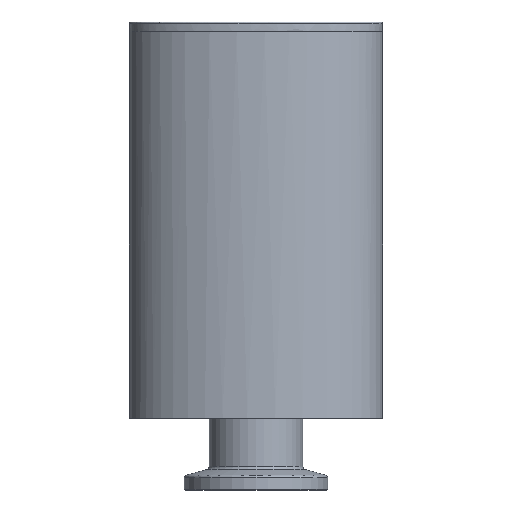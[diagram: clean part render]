
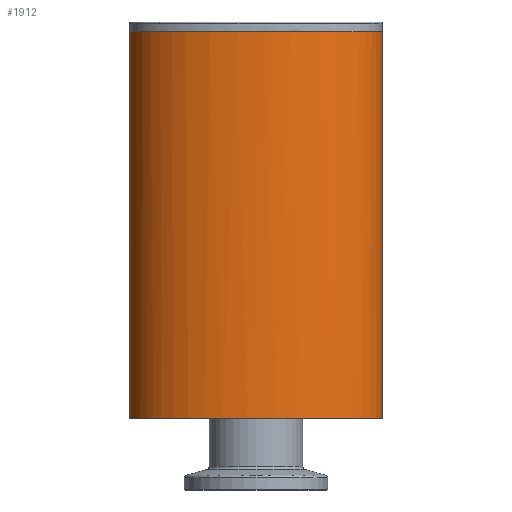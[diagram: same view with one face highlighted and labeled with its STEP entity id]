
A CAD part, front view. The second image highlights one B-rep face of the part: STEP entity #1912.
In plain terms, the highlighted free-form (B-spline) face has degree [3, 1] with [11, 2] control points.
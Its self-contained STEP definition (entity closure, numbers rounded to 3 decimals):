
#482 = CARTESIAN_POINT ( 'NONE',  ( -30.739, -4.303, 115.515 ) ) ;
#991 = CARTESIAN_POINT ( 'NONE',  ( -32.282, 2.533, 34.515 ) ) ;
#1443 = CARTESIAN_POINT ( 'NONE',  ( -32.282, 0.254, 115.515 ) ) ;
#1466 = VERTEX_POINT ( 'NONE', #4287 ) ;
#1646 = CARTESIAN_POINT ( 'NONE',  ( 20.718, 2.533, 115.515 ) ) ;
#1715 = VERTEX_POINT ( 'NONE', #4197 ) ;
#1756 = CARTESIAN_POINT ( 'NONE',  ( -32.282, 0.254, 34.515 ) ) ;
#1847 = LINE ( 'NONE', #5138, #13698 ) ;
#1912 = ADVANCED_FACE ( 'NONE', ( #12384 ), #13020, .T. ) ;
#2228 = B_SPLINE_CURVE_WITH_KNOTS ( 'NONE', 3,
 ( #991, #3346, #4134, #10814, #14171, #5495, #14104, #4345, #7439, #6281, #9669 ),
 .UNSPECIFIED., .F., .F.,
 ( 4, 1, 1, 1, 1, 1, 1, 1, 4 ),
 ( 0., 0.009, 0.017, 0.026, 0.034, 0.043, 0.051, 0.06, 0.069 ),
 .UNSPECIFIED. ) ;
#2634 = ORIENTED_EDGE ( 'NONE', *, *, #10253, .T. ) ;
#2706 = CARTESIAN_POINT ( 'NONE',  ( 20.718, 0.254, 115.515 ) ) ;
#2752 = CARTESIAN_POINT ( 'NONE',  ( -30.739, -4.303, 34.515 ) ) ;
#3133 = LINE ( 'NONE', #5497, #9160 ) ;
#3346 = CARTESIAN_POINT ( 'NONE',  ( -32.282, 0.254, 34.515 ) ) ;
#3690 = CARTESIAN_POINT ( 'NONE',  ( -32.282, 2.533, 34.515 ) ) ;
#3721 = CARTESIAN_POINT ( 'NONE',  ( -15.953, -13.16, 115.515 ) ) ;
#3766 = CARTESIAN_POINT ( 'NONE',  ( 4.388, -13.16, 115.515 ) ) ;
#3829 = CARTESIAN_POINT ( 'NONE',  ( -24.674, -9.674, 34.515 ) ) ;
#3896 = CARTESIAN_POINT ( 'NONE',  ( -15.953, -13.16, 115.515 ) ) ;
#3967 = CARTESIAN_POINT ( 'NONE',  ( 19.175, -4.303, 115.515 ) ) ;
#4134 = CARTESIAN_POINT ( 'NONE',  ( -30.739, -4.303, 34.515 ) ) ;
#4197 = CARTESIAN_POINT ( 'NONE',  ( 20.718, 2.533, 115.515 ) ) ;
#4287 = CARTESIAN_POINT ( 'NONE',  ( -32.282, 2.533, 115.515 ) ) ;
#4345 = CARTESIAN_POINT ( 'NONE',  ( 13.109, -9.674, 34.515 ) ) ;
#4462 = B_SPLINE_CURVE_WITH_KNOTS ( 'NONE', 3,
 ( #1646, #2706, #7151, #10461, #8033, #10191, #3721, #11258, #8104, #1443, #7017 ),
 .UNSPECIFIED., .F., .F.,
 ( 4, 1, 1, 1, 1, 1, 1, 1, 4 ),
 ( 0., 0.009, 0.017, 0.026, 0.034, 0.043, 0.051, 0.06, 0.069 ),
 .UNSPECIFIED. ) ;
#4844 = CARTESIAN_POINT ( 'NONE',  ( -24.674, -9.674, 115.515 ) ) ;
#5138 = CARTESIAN_POINT ( 'NONE',  ( 20.718, 2.533, 75.015 ) ) ;
#5492 = ORIENTED_EDGE ( 'NONE', *, *, #8215, .T. ) ;
#5495 = CARTESIAN_POINT ( 'NONE',  ( -5.782, -14.37, 34.515 ) ) ;
#5497 = CARTESIAN_POINT ( 'NONE',  ( -32.282, 2.533, 75.015 ) ) ;
#5909 = CARTESIAN_POINT ( 'NONE',  ( -32.282, 0.254, 115.515 ) ) ;
#6049 = CARTESIAN_POINT ( 'NONE',  ( 20.718, 0.254, 34.515 ) ) ;
#6116 = CARTESIAN_POINT ( 'NONE',  ( 20.718, 2.533, 34.515 ) ) ;
#6281 = CARTESIAN_POINT ( 'NONE',  ( 20.718, 0.254, 34.515 ) ) ;
#6330 = ORIENTED_EDGE ( 'NONE', *, *, #8298, .T. ) ;
#6396 = CARTESIAN_POINT ( 'NONE',  ( 20.718, 2.533, 34.515 ) ) ;
#6993 = CARTESIAN_POINT ( 'NONE',  ( -5.782, -14.37, 115.515 ) ) ;
#7017 = CARTESIAN_POINT ( 'NONE',  ( -32.282, 2.533, 115.515 ) ) ;
#7130 = CARTESIAN_POINT ( 'NONE',  ( 13.109, -9.674, 34.515 ) ) ;
#7151 = CARTESIAN_POINT ( 'NONE',  ( 19.175, -4.303, 115.515 ) ) ;
#7199 = CARTESIAN_POINT ( 'NONE',  ( 20.718, 0.254, 115.515 ) ) ;
#7396 = ORIENTED_EDGE ( 'NONE', *, *, #11153, .T. ) ;
#7437 = DIRECTION ( 'NONE',  ( 0., 0., 1. ) ) ;
#7439 = CARTESIAN_POINT ( 'NONE',  ( 19.175, -4.303, 34.515 ) ) ;
#8033 = CARTESIAN_POINT ( 'NONE',  ( 4.388, -13.16, 115.515 ) ) ;
#8104 = CARTESIAN_POINT ( 'NONE',  ( -30.739, -4.303, 115.515 ) ) ;
#8215 = EDGE_CURVE ( 'NONE', #1715, #1466, #4462, .T. ) ;
#8285 = CARTESIAN_POINT ( 'NONE',  ( 13.109, -9.674, 115.515 ) ) ;
#8298 = EDGE_CURVE ( 'NONE', #8935, #1715, #1847, .T. ) ;
#8598 = DIRECTION ( 'NONE',  ( 0., 0., -1. ) ) ;
#8641 = VERTEX_POINT ( 'NONE', #3690 ) ;
#8935 = VERTEX_POINT ( 'NONE', #6396 ) ;
#9160 = VECTOR ( 'NONE', #8598, 1000. ) ;
#9439 = CARTESIAN_POINT ( 'NONE',  ( 19.175, -4.303, 34.515 ) ) ;
#9669 = CARTESIAN_POINT ( 'NONE',  ( 20.718, 2.533, 34.515 ) ) ;
#10191 = CARTESIAN_POINT ( 'NONE',  ( -5.782, -14.37, 115.515 ) ) ;
#10253 = EDGE_CURVE ( 'NONE', #8641, #8935, #2228, .T. ) ;
#10461 = CARTESIAN_POINT ( 'NONE',  ( 13.109, -9.674, 115.515 ) ) ;
#10814 = CARTESIAN_POINT ( 'NONE',  ( -24.674, -9.674, 34.515 ) ) ;
#11153 = EDGE_CURVE ( 'NONE', #1466, #8641, #3133, .T. ) ;
#11258 = CARTESIAN_POINT ( 'NONE',  ( -24.674, -9.674, 115.515 ) ) ;
#11439 = CARTESIAN_POINT ( 'NONE',  ( -5.782, -14.37, 34.515 ) ) ;
#11505 = CARTESIAN_POINT ( 'NONE',  ( 20.718, 2.533, 115.515 ) ) ;
#11572 = CARTESIAN_POINT ( 'NONE',  ( 4.388, -13.16, 34.515 ) ) ;
#12384 = FACE_OUTER_BOUND ( 'NONE', #14047, .T. ) ;
#13020 = B_SPLINE_SURFACE_WITH_KNOTS ( 'NONE', 3, 1, ( 
 ( #13173, #13594 ),
 ( #1756, #5909 ),
 ( #2752, #482 ),
 ( #3829, #4844 ),
 ( #13797, #3896 ),
 ( #11439, #6993 ),
 ( #11572, #3766 ),
 ( #7130, #8285 ),
 ( #9439, #3967 ),
 ( #6049, #7199 ),
 ( #6116, #11505 ) ),
 .UNSPECIFIED., .F., .F., .F.,
 ( 4, 1, 1, 1, 1, 1, 1, 1, 4 ),
 ( 2, 2 ),
 ( 3.142, 3.534, 3.927, 4.32, 4.712, 5.105, 5.498, 5.89, 6.283 ),
 ( 0., 1. ),
 .UNSPECIFIED. ) ;
#13173 = CARTESIAN_POINT ( 'NONE',  ( -32.282, 2.533, 34.515 ) ) ;
#13594 = CARTESIAN_POINT ( 'NONE',  ( -32.282, 2.533, 115.515 ) ) ;
#13698 = VECTOR ( 'NONE', #7437, 1000. ) ;
#13797 = CARTESIAN_POINT ( 'NONE',  ( -15.953, -13.16, 34.515 ) ) ;
#14047 = EDGE_LOOP ( 'NONE', ( #7396, #2634, #6330, #5492 ) ) ;
#14104 = CARTESIAN_POINT ( 'NONE',  ( 4.388, -13.16, 34.515 ) ) ;
#14171 = CARTESIAN_POINT ( 'NONE',  ( -15.953, -13.16, 34.515 ) ) ;
